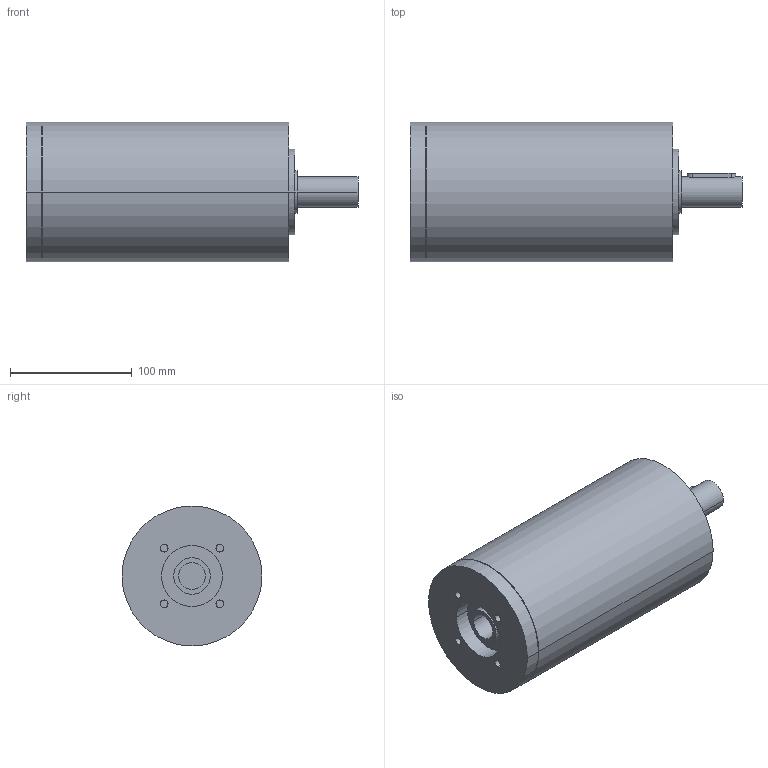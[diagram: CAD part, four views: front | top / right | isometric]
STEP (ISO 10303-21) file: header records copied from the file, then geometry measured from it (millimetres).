
FILE_DESCRIPTION(('CoCreate Modeling STEP Export'),'2;1');
FILE_NAME('GPR125_ig-48-64-80-100-140-196-245-343_25_B14_22_P10.stp','2014-08-26T14:22:10',(''),(''),'CoCreate Modeling STEP processor for AP214 (Solid Model)','CoCreate Modeling 16.00C 25-Feb-2009 (C) Parametric Technology GmbH','');
FILE_SCHEMA(('AUTOMOTIVE_DESIGN { 1 0 10303 214 1 1 1 1 }'));
Length unit declared in the file: millimetre
Products named in the file (2): GPR125_ig-48-64-80-100-140-196-245-343_25_B14_22_P10
Assembly tree (1 placements, depth 2):
  GPR125_ig-48-64-80-100-140-196-245-343_25_B14_22_P10
    GPR125_ig-48-64-80-100-140-196-245-343_25_B14_22_P10
Bounding box: 273 x 115 x 115 mm (x, y, z)
Volume: 2240099.4 mm3; surface area: 115556.1 mm2
Topology: 1 solids, 1 shells, 72 faces, 184 edges, 132 vertices
Faces by surface type: cylinder 44, plane 24, cone 4
Entity records: 1860 total; most frequent: ORIENTED_EDGE 364, CARTESIAN_POINT 347, DIRECTION 240, EDGE_CURVE 182, VERTEX_POINT 132, AXIS2_PLACEMENT_3D 93, EDGE_LOOP 92, FACE_OUTER_BOUND 72
